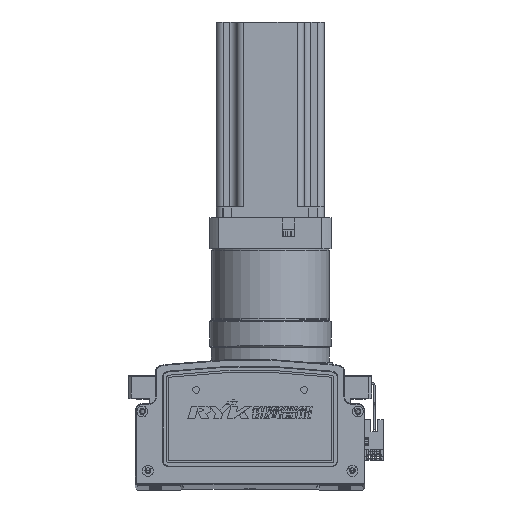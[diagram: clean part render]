
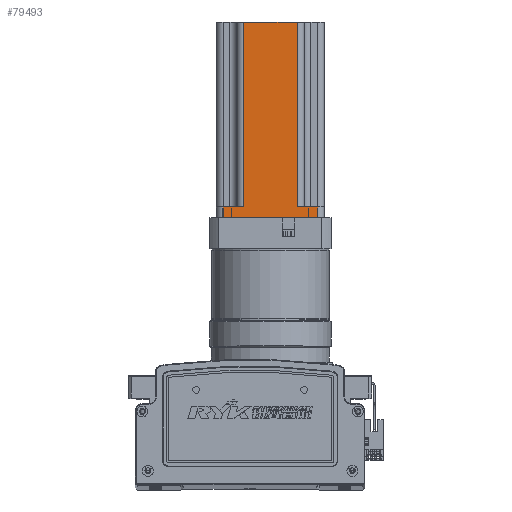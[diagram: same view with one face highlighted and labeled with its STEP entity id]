
A CAD part, top view. The second image highlights one B-rep face of the part: STEP entity #79493.
In plain terms, the highlighted planar face has unit normal (0, 0, 1) as drawn and (0, -1, 0) by its records, which use the part's own axes.
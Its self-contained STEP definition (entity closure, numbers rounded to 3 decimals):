
#20103 = LINE ( 'NONE', #23471, #20121 ) ;
#20104 = LINE ( 'NONE', #23518, #20131 ) ;
#20121 = VECTOR ( 'NONE', #23493, 1000. ) ;
#20127 = VECTOR ( 'NONE', #23558, 1000. ) ;
#20131 = VECTOR ( 'NONE', #23534, 1000. ) ;
#20141 = LINE ( 'NONE', #23582, #20127 ) ;
#20147 = VECTOR ( 'NONE', #23565, 1000. ) ;
#20152 = LINE ( 'NONE', #23570, #20180 ) ;
#20158 = LINE ( 'NONE', #23540, #20185 ) ;
#20172 = LINE ( 'NONE', #23526, #20189 ) ;
#20180 = VECTOR ( 'NONE', #23577, 1000. ) ;
#20182 = LINE ( 'NONE', #23550, #20147 ) ;
#20185 = VECTOR ( 'NONE', #23553, 1000. ) ;
#20189 = VECTOR ( 'NONE', #23538, 1000. ) ;
#20232 = VECTOR ( 'NONE', #23642, 1000. ) ;
#20252 = LINE ( 'NONE', #23640, #20232 ) ;
#23471 = CARTESIAN_POINT ( 'NONE',  ( -87.587, -40.37, 0. ) ) ;
#23493 = DIRECTION ( 'NONE',  ( 1., 0., 0. ) ) ;
#23518 = CARTESIAN_POINT ( 'NONE',  ( -7.587, -40.37, 8. ) ) ;
#23526 = CARTESIAN_POINT ( 'NONE',  ( -12.587, -40.37, 145. ) ) ;
#23534 = DIRECTION ( 'NONE',  ( 1., 0., 0. ) ) ;
#23538 = DIRECTION ( 'NONE',  ( 0., 0., 1. ) ) ;
#23540 = CARTESIAN_POINT ( 'NONE',  ( -82.587, -40.37, 145. ) ) ;
#23550 = CARTESIAN_POINT ( 'NONE',  ( -87.587, -40.37, 8. ) ) ;
#23553 = DIRECTION ( 'NONE',  ( 0., 0., -1. ) ) ;
#23558 = DIRECTION ( 'NONE',  ( 0., 0., -1. ) ) ;
#23565 = DIRECTION ( 'NONE',  ( 1., 0., 0. ) ) ;
#23570 = CARTESIAN_POINT ( 'NONE',  ( -87.587, -40.37, 145. ) ) ;
#23577 = DIRECTION ( 'NONE',  ( 1., 0., 0. ) ) ;
#23582 = CARTESIAN_POINT ( 'NONE',  ( -67.587, -40.37, 145. ) ) ;
#23640 = CARTESIAN_POINT ( 'NONE',  ( -27.587, -40.37, 145. ) ) ;
#23642 = DIRECTION ( 'NONE',  ( 0., 0., 1. ) ) ;
#25227 = ORIENTED_EDGE ( 'NONE', *, *, #51726, .F. ) ;
#25263 = ORIENTED_EDGE ( 'NONE', *, *, #51754, .F. ) ;
#25278 = ORIENTED_EDGE ( 'NONE', *, *, #51750, .F. ) ;
#25287 = ORIENTED_EDGE ( 'NONE', *, *, #51743, .T. ) ;
#25304 = ORIENTED_EDGE ( 'NONE', *, *, #51772, .T. ) ;
#25315 = ORIENTED_EDGE ( 'NONE', *, *, #51737, .T. ) ;
#25336 = ORIENTED_EDGE ( 'NONE', *, *, #51741, .T. ) ;
#25338 = ORIENTED_EDGE ( 'NONE', *, *, #51716, .T. ) ;
#26958 = CARTESIAN_POINT ( 'NONE',  ( -27.587, -40.37, 145. ) ) ;
#26960 = CARTESIAN_POINT ( 'NONE',  ( -12.587, -40.37, 0. ) ) ;
#26977 = CARTESIAN_POINT ( 'NONE',  ( -12.587, -40.37, 8. ) ) ;
#27000 = CARTESIAN_POINT ( 'NONE',  ( -82.587, -40.37, 0. ) ) ;
#27015 = CARTESIAN_POINT ( 'NONE',  ( -67.587, -40.37, 145. ) ) ;
#27034 = CARTESIAN_POINT ( 'NONE',  ( -27.587, -40.37, 8. ) ) ;
#27073 = CARTESIAN_POINT ( 'NONE',  ( -67.587, -40.37, 8. ) ) ;
#27119 = CARTESIAN_POINT ( 'NONE',  ( -82.587, -40.37, 8. ) ) ;
#37149 = VERTEX_POINT ( 'NONE', #26960 ) ;
#37188 = VERTEX_POINT ( 'NONE', #26958 ) ;
#37194 = VERTEX_POINT ( 'NONE', #26977 ) ;
#37222 = VERTEX_POINT ( 'NONE', #27015 ) ;
#37227 = VERTEX_POINT ( 'NONE', #27000 ) ;
#37333 = VERTEX_POINT ( 'NONE', #27073 ) ;
#37387 = VERTEX_POINT ( 'NONE', #27034 ) ;
#37395 = VERTEX_POINT ( 'NONE', #27119 ) ;
#47470 = EDGE_LOOP ( 'NONE', ( #25278, #25287, #25338, #25315, #25227, #25304, #25263, #25336 ) ) ;
#51400 = PLANE ( 'NONE',  #59636 ) ;
#51401 = DIRECTION ( 'NONE',  ( 0., 1., 0. ) ) ;
#51415 = CARTESIAN_POINT ( 'NONE',  ( -87.587, -40.37, 145. ) ) ;
#51416 = DIRECTION ( 'NONE',  ( -1., 0., 0. ) ) ;
#51716 = EDGE_CURVE ( 'NONE', #37227, #37149, #20103, .T. ) ;
#51726 = EDGE_CURVE ( 'NONE', #37387, #37194, #20104, .T. ) ;
#51737 = EDGE_CURVE ( 'NONE', #37149, #37194, #20172, .T. ) ;
#51741 = EDGE_CURVE ( 'NONE', #37222, #37333, #20141, .T. ) ;
#51743 = EDGE_CURVE ( 'NONE', #37395, #37227, #20158, .T. ) ;
#51750 = EDGE_CURVE ( 'NONE', #37395, #37333, #20182, .T. ) ;
#51754 = EDGE_CURVE ( 'NONE', #37222, #37188, #20152, .T. ) ;
#51772 = EDGE_CURVE ( 'NONE', #37387, #37188, #20252, .T. ) ;
#59636 = AXIS2_PLACEMENT_3D ( 'NONE', #51415, #51401, #51416 ) ;
#63229 = FACE_OUTER_BOUND ( 'NONE', #47470, .T. ) ;
#79493 = ADVANCED_FACE ( 'NONE', ( #63229 ), #51400, .F. ) ;
